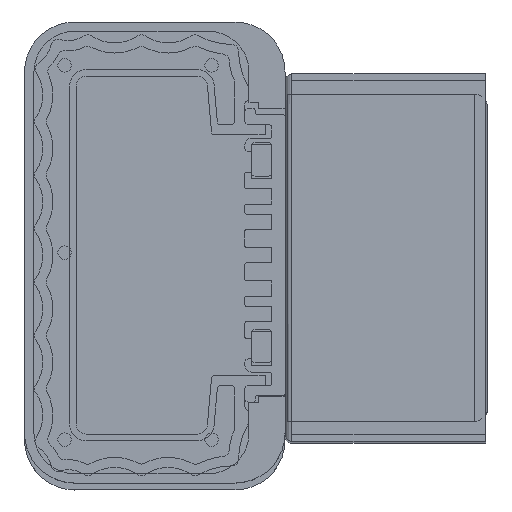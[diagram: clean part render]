
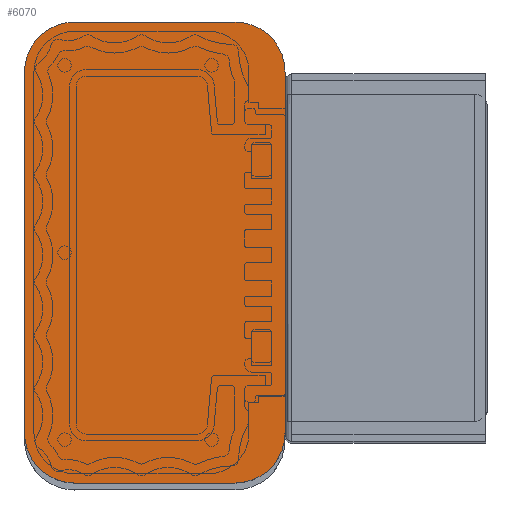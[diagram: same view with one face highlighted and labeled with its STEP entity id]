
A CAD part, top view. The second image highlights one B-rep face of the part: STEP entity #6070.
In plain terms, the highlighted planar face has unit normal (0, 0, 1) as drawn and (0, 0, -1) by its records, which use the part's own axes.
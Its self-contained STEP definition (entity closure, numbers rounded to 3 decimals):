
#595 = CARTESIAN_POINT ( 'NONE',  ( 2569.994, 0., 0. ) ) ;
#715 = CARTESIAN_POINT ( 'NONE',  ( 2569.994, 258.481, 0. ) ) ;
#1374 = ORIENTED_EDGE ( 'NONE', *, *, #6465, .F. ) ;
#1582 = CARTESIAN_POINT ( 'NONE',  ( 2569.994, 282.481, 0. ) ) ;
#1684 = EDGE_CURVE ( 'NONE', #5247, #11103, #2650, .T. ) ;
#2113 = DIRECTION ( 'NONE',  ( 0., 0., 1. ) ) ;
#2373 = DIRECTION ( 'NONE',  ( -1., 0., 0. ) ) ;
#2571 = AXIS2_PLACEMENT_3D ( 'NONE', #10682, #2113, #7178 ) ;
#2617 = DIRECTION ( 'NONE',  ( 1., 0., 0. ) ) ;
#2650 = LINE ( 'NONE', #595, #9719 ) ;
#2674 = ORIENTED_EDGE ( 'NONE', *, *, #6789, .F. ) ;
#2796 = AXIS2_PLACEMENT_3D ( 'NONE', #7945, #7033, #2617 ) ;
#3027 = CARTESIAN_POINT ( 'NONE',  ( 0., 250.981, 0. ) ) ;
#3480 = VERTEX_POINT ( 'NONE', #9013 ) ;
#3574 = LINE ( 'NONE', #12136, #11815 ) ;
#3662 = PLANE ( 'NONE',  #12611 ) ;
#3733 = VERTEX_POINT ( 'NONE', #9995 ) ;
#3768 = CARTESIAN_POINT ( 'NONE',  ( 2638.994, 0., 0. ) ) ;
#4498 = CARTESIAN_POINT ( 'NONE',  ( 2631.494, 250.981, 0. ) ) ;
#4776 = DIRECTION ( 'NONE',  ( 0., 0., 1. ) ) ;
#5071 = LINE ( 'NONE', #3027, #9290 ) ;
#5094 = EDGE_CURVE ( 'NONE', #12837, #11103, #7494, .T. ) ;
#5202 = EDGE_CURVE ( 'NONE', #3480, #3733, #11349, .T. ) ;
#5247 = VERTEX_POINT ( 'NONE', #715 ) ;
#5843 = EDGE_CURVE ( 'NONE', #11623, #8071, #5071, .T. ) ;
#5858 = DIRECTION ( 'NONE',  ( 0., 1., 0. ) ) ;
#6070 = ADVANCED_FACE ( 'NONE', ( #10512 ), #3662, .F. ) ;
#6363 = DIRECTION ( 'NONE',  ( 1., 0., 0. ) ) ;
#6465 = EDGE_CURVE ( 'NONE', #5247, #11623, #10719, .T. ) ;
#6492 = CARTESIAN_POINT ( 'NONE',  ( 2631.494, 258.481, 0. ) ) ;
#6572 = ORIENTED_EDGE ( 'NONE', *, *, #5094, .F. ) ;
#6789 = EDGE_CURVE ( 'NONE', #8071, #3480, #10515, .T. ) ;
#7033 = DIRECTION ( 'NONE',  ( 0., 0., 1. ) ) ;
#7178 = DIRECTION ( 'NONE',  ( 1., 0., 0. ) ) ;
#7476 = DIRECTION ( 'NONE',  ( 0., 0., 1. ) ) ;
#7494 = CIRCLE ( 'NONE', #2571, 7.5 ) ;
#7759 = VERTEX_POINT ( 'NONE', #8888 ) ;
#7945 = CARTESIAN_POINT ( 'NONE',  ( 2631.494, 282.481, 0. ) ) ;
#8053 = ORIENTED_EDGE ( 'NONE', *, *, #9510, .F. ) ;
#8071 = VERTEX_POINT ( 'NONE', #4498 ) ;
#8888 = CARTESIAN_POINT ( 'NONE',  ( 2631.494, 289.981, 0. ) ) ;
#8947 = AXIS2_PLACEMENT_3D ( 'NONE', #13830, #11705, #6363 ) ;
#9013 = CARTESIAN_POINT ( 'NONE',  ( 2638.994, 258.481, 0. ) ) ;
#9078 = DIRECTION ( 'NONE',  ( 1., 0., 0. ) ) ;
#9290 = VECTOR ( 'NONE', #9367, 1000. ) ;
#9366 = ORIENTED_EDGE ( 'NONE', *, *, #5202, .F. ) ;
#9367 = DIRECTION ( 'NONE',  ( 1., 0., 0. ) ) ;
#9471 = CARTESIAN_POINT ( 'NONE',  ( 2577.494, 289.981, 0. ) ) ;
#9510 = EDGE_CURVE ( 'NONE', #7759, #12837, #3574, .T. ) ;
#9594 = DIRECTION ( 'NONE',  ( 1., 0., 0. ) ) ;
#9719 = VECTOR ( 'NONE', #11284, 1000. ) ;
#9782 = ORIENTED_EDGE ( 'NONE', *, *, #5843, .F. ) ;
#9995 = CARTESIAN_POINT ( 'NONE',  ( 2638.994, 282.481, 0. ) ) ;
#10119 = CARTESIAN_POINT ( 'NONE',  ( 0., 0., 0. ) ) ;
#10512 = FACE_OUTER_BOUND ( 'NONE', #12595, .T. ) ;
#10515 = CIRCLE ( 'NONE', #13218, 7.5 ) ;
#10682 = CARTESIAN_POINT ( 'NONE',  ( 2577.494, 282.481, 0. ) ) ;
#10719 = CIRCLE ( 'NONE', #8947, 7.5 ) ;
#11103 = VERTEX_POINT ( 'NONE', #1582 ) ;
#11140 = ORIENTED_EDGE ( 'NONE', *, *, #1684, .T. ) ;
#11284 = DIRECTION ( 'NONE',  ( 0., 1., 0. ) ) ;
#11349 = LINE ( 'NONE', #3768, #13494 ) ;
#11623 = VERTEX_POINT ( 'NONE', #12799 ) ;
#11705 = DIRECTION ( 'NONE',  ( 0., 0., 1. ) ) ;
#11815 = VECTOR ( 'NONE', #2373, 1000. ) ;
#11937 = EDGE_CURVE ( 'NONE', #3733, #7759, #13115, .T. ) ;
#12136 = CARTESIAN_POINT ( 'NONE',  ( 0., 289.981, 0. ) ) ;
#12149 = ORIENTED_EDGE ( 'NONE', *, *, #11937, .F. ) ;
#12595 = EDGE_LOOP ( 'NONE', ( #9782, #1374, #11140, #6572, #8053, #12149, #9366, #2674 ) ) ;
#12611 = AXIS2_PLACEMENT_3D ( 'NONE', #10119, #4776, #9078 ) ;
#12799 = CARTESIAN_POINT ( 'NONE',  ( 2577.494, 250.981, 0. ) ) ;
#12837 = VERTEX_POINT ( 'NONE', #9471 ) ;
#13115 = CIRCLE ( 'NONE', #2796, 7.5 ) ;
#13218 = AXIS2_PLACEMENT_3D ( 'NONE', #6492, #7476, #9594 ) ;
#13494 = VECTOR ( 'NONE', #5858, 1000. ) ;
#13830 = CARTESIAN_POINT ( 'NONE',  ( 2577.494, 258.481, 0. ) ) ;
